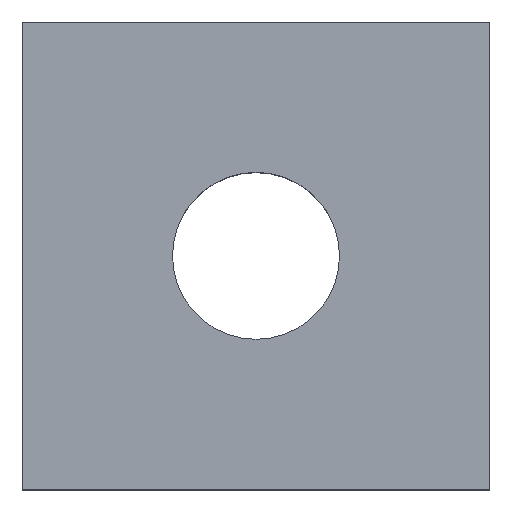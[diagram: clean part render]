
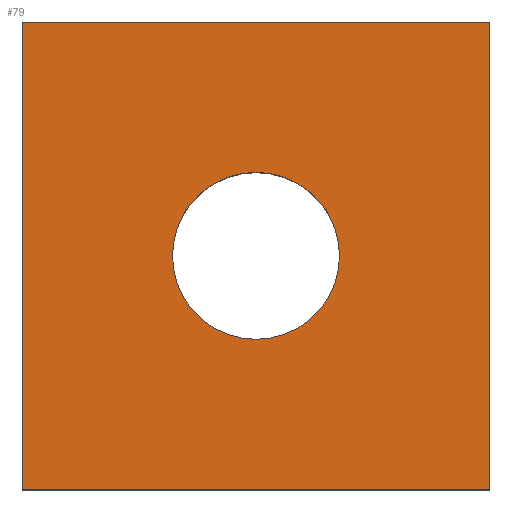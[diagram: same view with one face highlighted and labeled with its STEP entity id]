
A CAD part, top view. The second image highlights one B-rep face of the part: STEP entity #79.
In plain terms, the highlighted free-form (B-spline) face has degree [1, 1] with [2, 2] control points.
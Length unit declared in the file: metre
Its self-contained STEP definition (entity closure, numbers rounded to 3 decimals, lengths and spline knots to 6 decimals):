
#79 = ADVANCED_FACE( '', ( #93, #94 ), #95, .T. );
#93 = FACE_BOUND( '', #139, .T. );
#94 = FACE_OUTER_BOUND( '', #140, .T. );
#95 = B_SPLINE_SURFACE_WITH_KNOTS( '', 1, 1, ( ( #141, #142 ), ( #143, #144 ) ), .UNSPECIFIED., .F., .F., .F., ( 2, 2 ), ( 2, 2 ), ( 0., 1. ), ( 0., 1. ), .UNSPECIFIED. );
#139 = EDGE_LOOP( '', ( #170 ) );
#140 = EDGE_LOOP( '', ( #171, #172, #173, #174 ) );
#141 = CARTESIAN_POINT( '', ( 11.564171, 7.255736, 0.283519 ) );
#142 = CARTESIAN_POINT( '', ( 11.564171, 7.271136, 0.283519 ) );
#143 = CARTESIAN_POINT( '', ( 11.579571, 7.255736, 0.283519 ) );
#144 = CARTESIAN_POINT( '', ( 11.579571, 7.271136, 0.283519 ) );
#170 = ORIENTED_EDGE( '', *, *, #187, .F. );
#171 = ORIENTED_EDGE( '', *, *, #194, .T. );
#172 = ORIENTED_EDGE( '', *, *, #195, .T. );
#173 = ORIENTED_EDGE( '', *, *, #183, .T. );
#174 = ORIENTED_EDGE( '', *, *, #189, .T. );
#183 = EDGE_CURVE( '', #197, #198, #199, .T. );
#187 = EDGE_CURVE( '', #205, #205, #206, .T. );
#189 = EDGE_CURVE( '', #198, #209, #210, .T. );
#194 = EDGE_CURVE( '', #209, #217, #218, .T. );
#195 = EDGE_CURVE( '', #217, #197, #219, .T. );
#197 = VERTEX_POINT( '', #221 );
#198 = VERTEX_POINT( '', #222 );
#199 = LINE( '', #223, #224 );
#205 = VERTEX_POINT( '', #233 );
#206 = CIRCLE( '', #234, 0.0025 );
#209 = VERTEX_POINT( '', #237 );
#210 = LINE( '', #238, #239 );
#217 = VERTEX_POINT( '', #250 );
#218 = LINE( '', #251, #252 );
#219 = LINE( '', #253, #254 );
#221 = CARTESIAN_POINT( '', ( 11.578871, 7.270436, 0.283519 ) );
#222 = CARTESIAN_POINT( '', ( 11.564871, 7.270436, 0.283519 ) );
#223 = CARTESIAN_POINT( '', ( 11.571871, 7.270436, 0.283519 ) );
#224 = VECTOR( '', #257, 1. );
#233 = CARTESIAN_POINT( '', ( 11.574371, 7.263436, 0.283519 ) );
#234 = AXIS2_PLACEMENT_3D( '', #261, #262, #263 );
#237 = CARTESIAN_POINT( '', ( 11.564871, 7.256436, 0.283519 ) );
#238 = CARTESIAN_POINT( '', ( 11.564871, 7.263436, 0.283519 ) );
#239 = VECTOR( '', #267, 1. );
#250 = CARTESIAN_POINT( '', ( 11.578871, 7.256436, 0.283519 ) );
#251 = CARTESIAN_POINT( '', ( 11.571871, 7.256436, 0.283519 ) );
#252 = VECTOR( '', #272, 1. );
#253 = CARTESIAN_POINT( '', ( 11.578871, 7.263436, 0.283519 ) );
#254 = VECTOR( '', #273, 1. );
#257 = DIRECTION( '', ( -1., 0., 0. ) );
#261 = CARTESIAN_POINT( '', ( 11.571871, 7.263436, 0.283519 ) );
#262 = DIRECTION( '', ( 0., 0., 1. ) );
#263 = DIRECTION( '', ( 0., -1., 0. ) );
#267 = DIRECTION( '', ( 0., -1., 0. ) );
#272 = DIRECTION( '', ( 1., 0., 0. ) );
#273 = DIRECTION( '', ( 0., 1., 0. ) );
